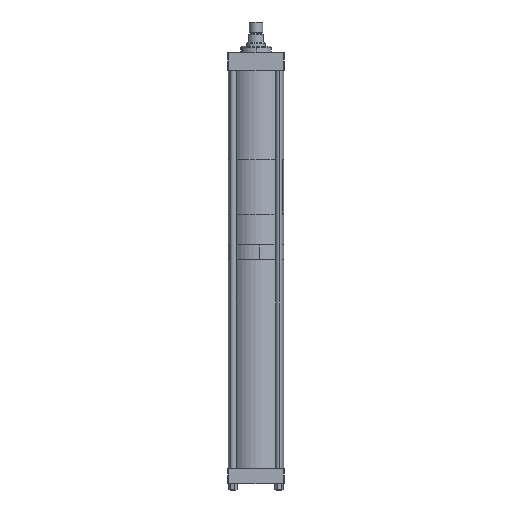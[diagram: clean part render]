
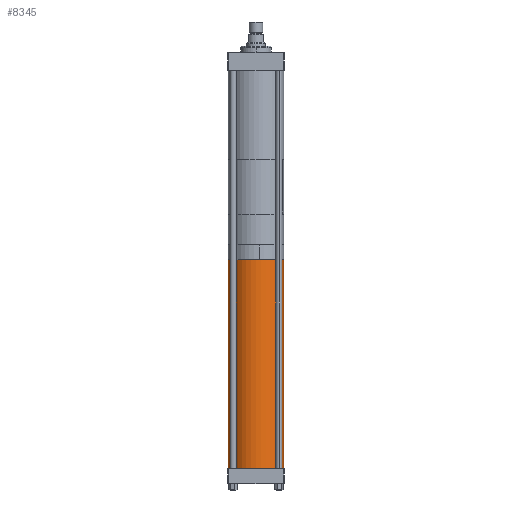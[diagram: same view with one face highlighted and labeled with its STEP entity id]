
A CAD part, front view. The second image highlights one B-rep face of the part: STEP entity #8345.
In plain terms, the highlighted cylindrical face has radius 45 mm (diameter 90 mm), a partial arc.
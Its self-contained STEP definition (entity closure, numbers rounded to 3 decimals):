
#322 = DIRECTION ( 'NONE',  ( -1., 0., 0. ) ) ;
#405 = VERTEX_POINT ( 'NONE', #11685 ) ;
#564 = LINE ( 'NONE', #4096, #11919 ) ;
#748 = CARTESIAN_POINT ( 'NONE',  ( 45., 0., 169.25 ) ) ;
#1085 = VERTEX_POINT ( 'NONE', #6445 ) ;
#2071 = EDGE_LOOP ( 'NONE', ( #13199, #4295, #8906, #5157 ) ) ;
#2473 = CARTESIAN_POINT ( 'NONE',  ( 0., 0., -169.25 ) ) ;
#2550 = DIRECTION ( 'NONE',  ( 0., 0., 1. ) ) ;
#2943 = VERTEX_POINT ( 'NONE', #748 ) ;
#3007 = AXIS2_PLACEMENT_3D ( 'NONE', #6150, #2550, #14317 ) ;
#3779 = DIRECTION ( 'NONE',  ( 0., 0., -1. ) ) ;
#4009 = CYLINDRICAL_SURFACE ( 'NONE', #5944, 45. ) ;
#4096 = CARTESIAN_POINT ( 'NONE',  ( 45., 0., 169.25 ) ) ;
#4284 = CARTESIAN_POINT ( 'NONE',  ( 45., 0., -169.25 ) ) ;
#4295 = ORIENTED_EDGE ( 'NONE', *, *, #8359, .F. ) ;
#4942 = CIRCLE ( 'NONE', #10297, 45. ) ;
#5157 = ORIENTED_EDGE ( 'NONE', *, *, #6049, .T. ) ;
#5205 = CIRCLE ( 'NONE', #3007, 45. ) ;
#5944 = AXIS2_PLACEMENT_3D ( 'NONE', #11872, #3779, #322 ) ;
#6049 = EDGE_CURVE ( 'NONE', #1085, #14332, #4942, .T. ) ;
#6150 = CARTESIAN_POINT ( 'NONE',  ( 0., 0., 169.25 ) ) ;
#6445 = CARTESIAN_POINT ( 'NONE',  ( -45., 0., -169.25 ) ) ;
#6809 = EDGE_CURVE ( 'NONE', #405, #1085, #7325, .T. ) ;
#7325 = LINE ( 'NONE', #9595, #11266 ) ;
#7380 = FACE_OUTER_BOUND ( 'NONE', #2071, .T. ) ;
#8345 = ADVANCED_FACE ( 'NONE', ( #7380 ), #4009, .T. ) ;
#8359 = EDGE_CURVE ( 'NONE', #405, #2943, #5205, .T. ) ;
#8906 = ORIENTED_EDGE ( 'NONE', *, *, #6809, .T. ) ;
#9439 = DIRECTION ( 'NONE',  ( 0., 0., 1. ) ) ;
#9577 = DIRECTION ( 'NONE',  ( 1., 0., 0. ) ) ;
#9595 = CARTESIAN_POINT ( 'NONE',  ( -45., 0., 169.25 ) ) ;
#10297 = AXIS2_PLACEMENT_3D ( 'NONE', #2473, #9439, #9577 ) ;
#11266 = VECTOR ( 'NONE', #13268, 1000. ) ;
#11685 = CARTESIAN_POINT ( 'NONE',  ( -45., 0., 169.25 ) ) ;
#11872 = CARTESIAN_POINT ( 'NONE',  ( 0., 0., 169.25 ) ) ;
#11919 = VECTOR ( 'NONE', #13412, 1000. ) ;
#13199 = ORIENTED_EDGE ( 'NONE', *, *, #14632, .F. ) ;
#13268 = DIRECTION ( 'NONE',  ( 0., 0., -1. ) ) ;
#13412 = DIRECTION ( 'NONE',  ( 0., 0., -1. ) ) ;
#14317 = DIRECTION ( 'NONE',  ( 1., 0., 0. ) ) ;
#14332 = VERTEX_POINT ( 'NONE', #4284 ) ;
#14632 = EDGE_CURVE ( 'NONE', #2943, #14332, #564, .T. ) ;
